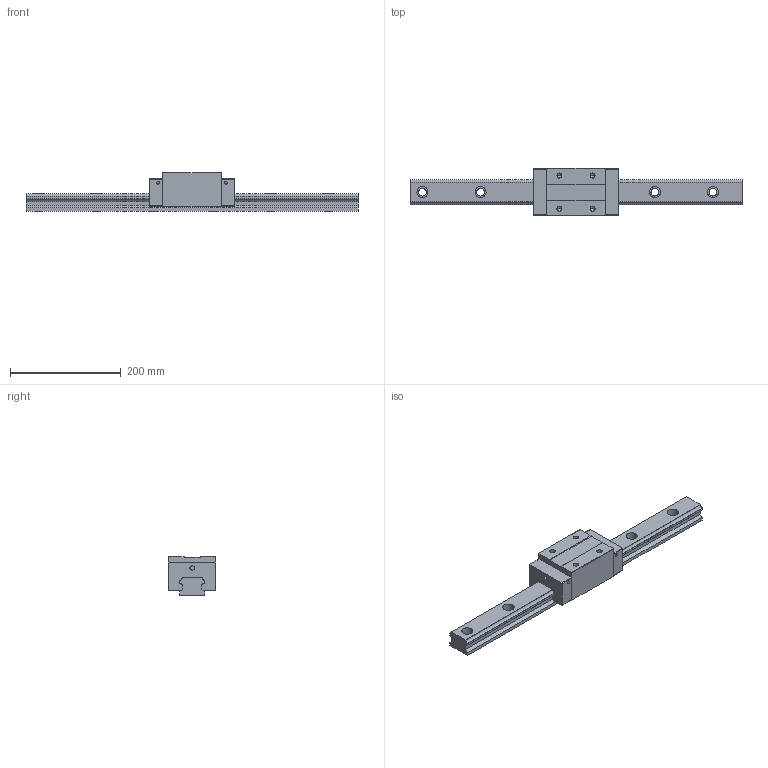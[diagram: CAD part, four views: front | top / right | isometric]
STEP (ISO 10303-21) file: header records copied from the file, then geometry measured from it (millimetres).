
FILE_DESCRIPTION (( 'STEP AP203' ), '1' );
FILE_NAME ('TRH45VL-SZ.STEP', '2024-07-10T02:41:23', ( '' ), ( '' ), 'SwSTEP 2.0', 'SolidWorks 2022', '' );
FILE_SCHEMA (( 'CONFIG_CONTROL_DESIGN' ));
Length unit declared in the file: millimetre
Products named in the file (1): TRH45VL-SZ
Bounding box: 600 x 85.5 x 70 mm (x, y, z)
Volume: 1326894 mm3; surface area: 170466.1 mm2
Topology: 2 solids, 2 shells, 180 faces, 472 edges, 304 vertices
Faces by surface type: plane 84, cylinder 80, cone 16
Entity records: 5607 total; most frequent: DIRECTION 994, CARTESIAN_POINT 949, ORIENTED_EDGE 928, EDGE_CURVE 464, AXIS2_PLACEMENT_3D 349, VERTEX_POINT 304, VECTOR 296, LINE 296
